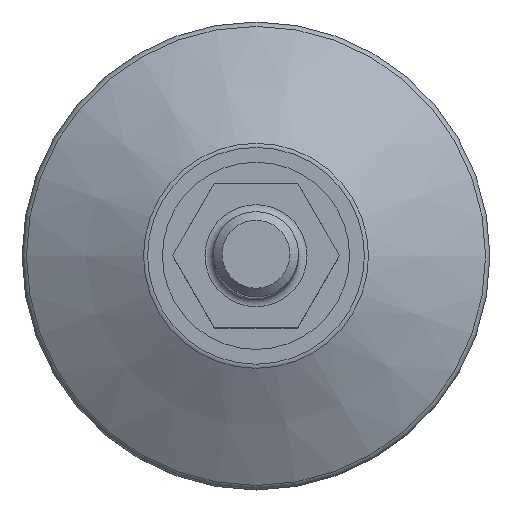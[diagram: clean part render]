
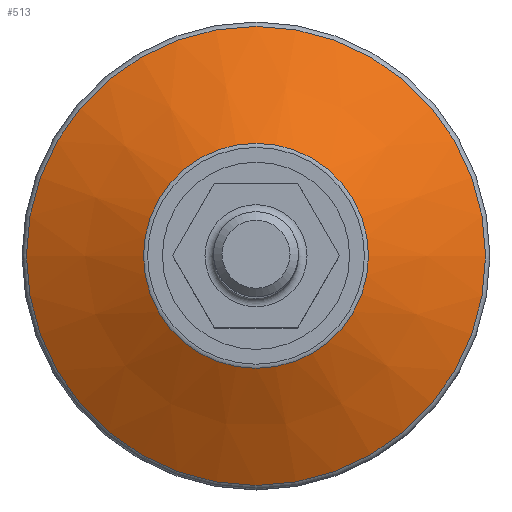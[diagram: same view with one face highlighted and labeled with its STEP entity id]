
A CAD part, top view. The second image highlights one B-rep face of the part: STEP entity #513.
In plain terms, the highlighted conical face has half-angle 61.113 degrees and reference radius 20.104 mm.
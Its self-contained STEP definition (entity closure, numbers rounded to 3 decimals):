
#84=CONICAL_SURFACE('',#578,20.104,61.113);
#105=FACE_BOUND('',#190,.T.);
#134=FACE_OUTER_BOUND('',#189,.T.);
#189=EDGE_LOOP('',(#402));
#190=EDGE_LOOP('',(#403));
#238=CIRCLE('',#550,13.226);
#254=CIRCLE('',#577,26.983);
#273=VERTEX_POINT('',#800);
#289=VERTEX_POINT('',#843);
#320=EDGE_CURVE('',#273,#273,#238,.T.);
#336=EDGE_CURVE('',#289,#289,#254,.T.);
#402=ORIENTED_EDGE('',*,*,#320,.T.);
#403=ORIENTED_EDGE('',*,*,#336,.F.);
#513=ADVANCED_FACE('',(#134,#105),#84,.T.);
#550=AXIS2_PLACEMENT_3D('',#801,#632,#633);
#577=AXIS2_PLACEMENT_3D('',#844,#686,#687);
#578=AXIS2_PLACEMENT_3D('',#845,#688,#689);
#632=DIRECTION('center_axis',(0.,0.,-1.));
#633=DIRECTION('ref_axis',(-1.,0.,0.));
#686=DIRECTION('center_axis',(0.,0.,-1.));
#687=DIRECTION('ref_axis',(-1.,0.,0.));
#688=DIRECTION('center_axis',(0.,0.,-1.));
#689=DIRECTION('ref_axis',(-1.,0.,0.));
#800=CARTESIAN_POINT('',(13.226,0.,8.876));
#801=CARTESIAN_POINT('Origin',(0.,0.,8.876));
#843=CARTESIAN_POINT('',(26.983,0.,1.285));
#844=CARTESIAN_POINT('Origin',(0.,0.,1.285));
#845=CARTESIAN_POINT('Origin',(0.,0.,5.08));
